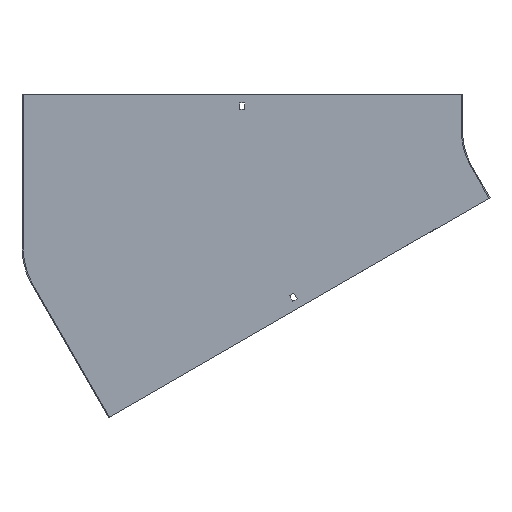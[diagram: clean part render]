
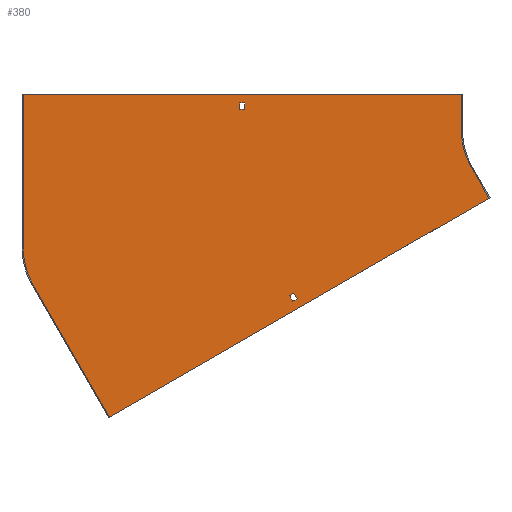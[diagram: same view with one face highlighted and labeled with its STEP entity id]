
A CAD part, front view. The second image highlights one B-rep face of the part: STEP entity #380.
In plain terms, the highlighted planar face has unit normal (0, -1, 0).
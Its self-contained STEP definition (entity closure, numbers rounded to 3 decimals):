
#1 = EDGE_CURVE ( 'NONE', #430, #124, #768, .T. ) ;
#15 = LINE ( 'NONE', #281, #273 ) ;
#17 = ORIENTED_EDGE ( 'NONE', *, *, #795, .F. ) ;
#23 = CARTESIAN_POINT ( 'NONE',  ( -331.957, -1.5, -235.534 ) ) ;
#27 = VECTOR ( 'NONE', #845, 1000. ) ;
#29 = VECTOR ( 'NONE', #486, 1000. ) ;
#38 = CARTESIAN_POINT ( 'NONE',  ( 19., -1.5, -32.909 ) ) ;
#39 = CARTESIAN_POINT ( 'NONE',  ( -584.682, -1.5, -395.301 ) ) ;
#44 = CARTESIAN_POINT ( 'NONE',  ( -326.328, -1.5, -232.284 ) ) ;
#47 = DIRECTION ( 'NONE',  ( 1., 0., 0. ) ) ;
#48 = ORIENTED_EDGE ( 'NONE', *, *, #840, .F. ) ;
#52 = DIRECTION ( 'NONE',  ( 0., 0., -1. ) ) ;
#54 = AXIS2_PLACEMENT_3D ( 'NONE', #414, #512, #429 ) ;
#64 = VECTOR ( 'NONE', #73, 1000. ) ;
#67 = DIRECTION ( 'NONE',  ( -0.866, 0., -0.5 ) ) ;
#73 = DIRECTION ( 'NONE',  ( 1., 0., 0. ) ) ;
#91 = VECTOR ( 'NONE', #562, 1000. ) ;
#104 = DIRECTION ( 'NONE',  ( 0., 0., 1. ) ) ;
#111 = VECTOR ( 'NONE', #698, 1000. ) ;
#116 = CARTESIAN_POINT ( 'NONE',  ( -604., -1.5, -161.841 ) ) ;
#118 = EDGE_CURVE ( 'NONE', #811, #501, #506, .T. ) ;
#121 = AXIS2_PLACEMENT_3D ( 'NONE', #564, #444, #685 ) ;
#124 = VERTEX_POINT ( 'NONE', #44 ) ;
#125 = VERTEX_POINT ( 'NONE', #312 ) ;
#137 = CARTESIAN_POINT ( 'NONE',  ( -60.304, -1.5, -92.551 ) ) ;
#139 = EDGE_CURVE ( 'NONE', #711, #125, #443, .T. ) ;
#151 = VERTEX_POINT ( 'NONE', #825 ) ;
#159 = LINE ( 'NONE', #361, #391 ) ;
#160 = ORIENTED_EDGE ( 'NONE', *, *, #369, .T. ) ;
#165 = CARTESIAN_POINT ( 'NONE',  ( -405.25, -1.5, 29. ) ) ;
#173 = CARTESIAN_POINT ( 'NONE',  ( -350.957, -1.5, -202.625 ) ) ;
#177 = VECTOR ( 'NONE', #448, 1000. ) ;
#199 = LINE ( 'NONE', #586, #27 ) ;
#201 = LINE ( 'NONE', #137, #751 ) ;
#206 = DIRECTION ( 'NONE',  ( 0., 0., 1. ) ) ;
#208 = EDGE_CURVE ( 'NONE', #124, #744, #199, .T. ) ;
#215 = CARTESIAN_POINT ( 'NONE',  ( -405.25, -1.5, 38. ) ) ;
#226 = FACE_OUTER_BOUND ( 'NONE', #431, .T. ) ;
#228 = CARTESIAN_POINT ( 'NONE',  ( -704., -1.5, 50. ) ) ;
#233 = ORIENTED_EDGE ( 'NONE', *, *, #1, .F. ) ;
#237 = PLANE ( 'NONE',  #121 ) ;
#248 = AXIS2_PLACEMENT_3D ( 'NONE', #116, #385, #52 ) ;
#255 = EDGE_CURVE ( 'NONE', #770, #762, #496, .T. ) ;
#265 = DIRECTION ( 'NONE',  ( 0., 0., -1. ) ) ;
#273 = VECTOR ( 'NONE', #206, 1000. ) ;
#281 = CARTESIAN_POINT ( 'NONE',  ( -704., -1.5, -161.841 ) ) ;
#293 = ORIENTED_EDGE ( 'NONE', *, *, #338, .F. ) ;
#294 = LINE ( 'NONE', #446, #862 ) ;
#309 = VECTOR ( 'NONE', #47, 1000. ) ;
#310 = ORIENTED_EDGE ( 'NONE', *, *, #208, .F. ) ;
#312 = CARTESIAN_POINT ( 'NONE',  ( -100., -1.5, 0. ) ) ;
#318 = EDGE_CURVE ( 'NONE', #151, #811, #201, .T. ) ;
#322 = CARTESIAN_POINT ( 'NONE',  ( -330.828, -1.5, -224.49 ) ) ;
#328 = CARTESIAN_POINT ( 'NONE',  ( -398.75, -1.5, 38. ) ) ;
#338 = EDGE_CURVE ( 'NONE', #344, #611, #15, .T. ) ;
#344 = VERTEX_POINT ( 'NONE', #603 ) ;
#356 = FACE_BOUND ( 'NONE', #632, .T. ) ;
#361 = CARTESIAN_POINT ( 'NONE',  ( 0., -1.5, 29. ) ) ;
#366 = CARTESIAN_POINT ( 'NONE',  ( -100., -1.5, 50. ) ) ;
#368 = EDGE_CURVE ( 'NONE', #125, #463, #436, .T. ) ;
#369 = EDGE_CURVE ( 'NONE', #508, #689, #159, .T. ) ;
#380 = ADVANCED_FACE ( 'NONE', ( #820, #226, #356 ), #237, .T. ) ;
#385 = DIRECTION ( 'NONE',  ( 0., 1., 0. ) ) ;
#391 = VECTOR ( 'NONE', #625, 1000. ) ;
#414 = CARTESIAN_POINT ( 'NONE',  ( 0., -1.5, 0. ) ) ;
#423 = ORIENTED_EDGE ( 'NONE', *, *, #489, .F. ) ;
#429 = DIRECTION ( 'NONE',  ( 0., 0., -1. ) ) ;
#430 = VERTEX_POINT ( 'NONE', #23 ) ;
#431 = EDGE_LOOP ( 'NONE', ( #509, #293, #616, #478, #681, #423, #517, #535 ) ) ;
#436 = CIRCLE ( 'NONE', #54, 100. ) ;
#439 = VECTOR ( 'NONE', #638, 1000. ) ;
#443 = LINE ( 'NONE', #366, #696 ) ;
#444 = DIRECTION ( 'NONE',  ( 0., -1., 0. ) ) ;
#446 = CARTESIAN_POINT ( 'NONE',  ( -405.25, -1.5, 0. ) ) ;
#448 = DIRECTION ( 'NONE',  ( -0.5, 0., 0.866 ) ) ;
#453 = CARTESIAN_POINT ( 'NONE',  ( -398.75, -1.5, 29. ) ) ;
#463 = VERTEX_POINT ( 'NONE', #568 ) ;
#465 = EDGE_CURVE ( 'NONE', #611, #711, #640, .T. ) ;
#469 = ORIENTED_EDGE ( 'NONE', *, *, #255, .T. ) ;
#478 = ORIENTED_EDGE ( 'NONE', *, *, #118, .F. ) ;
#482 = CARTESIAN_POINT ( 'NONE',  ( 14.5, -1.5, -25.115 ) ) ;
#486 = DIRECTION ( 'NONE',  ( -0.866, 0., -0.5 ) ) ;
#489 = EDGE_CURVE ( 'NONE', #463, #151, #827, .T. ) ;
#495 = CIRCLE ( 'NONE', #248, 100. ) ;
#496 = LINE ( 'NONE', #670, #64 ) ;
#501 = VERTEX_POINT ( 'NONE', #630 ) ;
#506 = LINE ( 'NONE', #777, #177 ) ;
#508 = VERTEX_POINT ( 'NONE', #453 ) ;
#509 = ORIENTED_EDGE ( 'NONE', *, *, #465, .F. ) ;
#512 = DIRECTION ( 'NONE',  ( 0., -1., 0. ) ) ;
#517 = ORIENTED_EDGE ( 'NONE', *, *, #368, .F. ) ;
#535 = ORIENTED_EDGE ( 'NONE', *, *, #139, .F. ) ;
#562 = DIRECTION ( 'NONE',  ( 0.866, 0., 0.5 ) ) ;
#564 = CARTESIAN_POINT ( 'NONE',  ( 0., -1.5, 0. ) ) ;
#568 = CARTESIAN_POINT ( 'NONE',  ( -86.603, -1.5, -50. ) ) ;
#585 = ORIENTED_EDGE ( 'NONE', *, *, #763, .T. ) ;
#586 = CARTESIAN_POINT ( 'NONE',  ( -345.328, -1.5, -199.375 ) ) ;
#603 = CARTESIAN_POINT ( 'NONE',  ( -704., -1.5, -161.841 ) ) ;
#611 = VERTEX_POINT ( 'NONE', #228 ) ;
#616 = ORIENTED_EDGE ( 'NONE', *, *, #738, .F. ) ;
#625 = DIRECTION ( 'NONE',  ( -1., 0., 0. ) ) ;
#630 = CARTESIAN_POINT ( 'NONE',  ( -690.603, -1.5, -211.841 ) ) ;
#632 = EDGE_LOOP ( 'NONE', ( #469, #585, #160, #822 ) ) ;
#638 = DIRECTION ( 'NONE',  ( 0.5, 0., -0.866 ) ) ;
#640 = LINE ( 'NONE', #815, #309 ) ;
#646 = DIRECTION ( 'NONE',  ( 0., 0., -1. ) ) ;
#656 = CARTESIAN_POINT ( 'NONE',  ( -398.75, -1.5, 0. ) ) ;
#670 = CARTESIAN_POINT ( 'NONE',  ( 0., -1.5, 38. ) ) ;
#673 = LINE ( 'NONE', #482, #29 ) ;
#681 = ORIENTED_EDGE ( 'NONE', *, *, #318, .F. ) ;
#685 = DIRECTION ( 'NONE',  ( 0., 0., -1. ) ) ;
#689 = VERTEX_POINT ( 'NONE', #165 ) ;
#691 = EDGE_LOOP ( 'NONE', ( #310, #233, #48, #17 ) ) ;
#696 = VECTOR ( 'NONE', #646, 1000. ) ;
#698 = DIRECTION ( 'NONE',  ( 0.5, 0., -0.866 ) ) ;
#702 = LINE ( 'NONE', #173, #439 ) ;
#703 = EDGE_CURVE ( 'NONE', #689, #770, #294, .T. ) ;
#711 = VERTEX_POINT ( 'NONE', #857 ) ;
#725 = LINE ( 'NONE', #656, #804 ) ;
#731 = CARTESIAN_POINT ( 'NONE',  ( -336.457, -1.5, -227.74 ) ) ;
#738 = EDGE_CURVE ( 'NONE', #501, #344, #495, .T. ) ;
#744 = VERTEX_POINT ( 'NONE', #322 ) ;
#751 = VECTOR ( 'NONE', #67, 1000. ) ;
#760 = CARTESIAN_POINT ( 'NONE',  ( -86.603, -1.5, -50. ) ) ;
#762 = VERTEX_POINT ( 'NONE', #328 ) ;
#763 = EDGE_CURVE ( 'NONE', #762, #508, #725, .T. ) ;
#768 = LINE ( 'NONE', #38, #91 ) ;
#770 = VERTEX_POINT ( 'NONE', #215 ) ;
#777 = CARTESIAN_POINT ( 'NONE',  ( -584.682, -1.5, -395.301 ) ) ;
#785 = VERTEX_POINT ( 'NONE', #731 ) ;
#795 = EDGE_CURVE ( 'NONE', #744, #785, #673, .T. ) ;
#804 = VECTOR ( 'NONE', #265, 1000. ) ;
#811 = VERTEX_POINT ( 'NONE', #39 ) ;
#815 = CARTESIAN_POINT ( 'NONE',  ( -705.5, -1.5, 50. ) ) ;
#820 = FACE_BOUND ( 'NONE', #691, .T. ) ;
#822 = ORIENTED_EDGE ( 'NONE', *, *, #703, .T. ) ;
#825 = CARTESIAN_POINT ( 'NONE',  ( -61.603, -1.5, -93.301 ) ) ;
#827 = LINE ( 'NONE', #760, #111 ) ;
#840 = EDGE_CURVE ( 'NONE', #785, #430, #702, .T. ) ;
#845 = DIRECTION ( 'NONE',  ( -0.5, 0., 0.866 ) ) ;
#857 = CARTESIAN_POINT ( 'NONE',  ( -100., -1.5, 50. ) ) ;
#862 = VECTOR ( 'NONE', #104, 1000. ) ;
